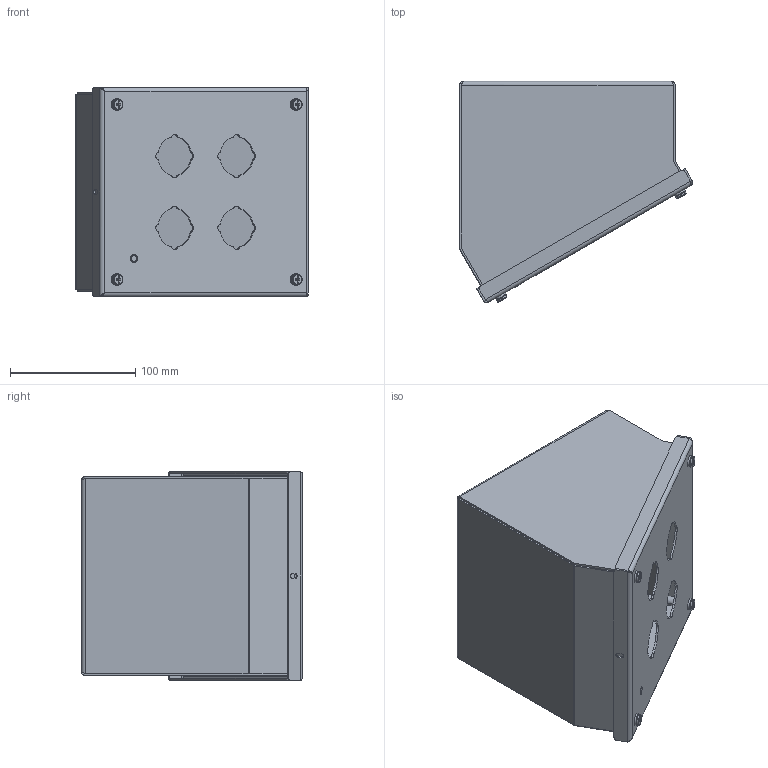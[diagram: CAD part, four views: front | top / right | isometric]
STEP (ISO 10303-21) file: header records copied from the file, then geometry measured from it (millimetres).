
FILE_DESCRIPTION((''),'2;1');
FILE_NAME('MODEL-043_ASM','2023-04-03T13:30:21',('joshi'),('SAGINAW CONTROL & ENGINEERING'),'CREO PARAMETRIC BY PTC INC, 2021284','CREO PARAMETRIC BY PTC INC, 2021284','');
FILE_SCHEMA(('AUTOMOTIVE_DESIGN { 1 0 10303 214 1 1 1 1 }'));
Length unit declared in the file: inch
Products named in the file (12): MODEL-043-BDY; MODEL-043-DR; 100063; 100983; 102534; MODEL-043-GSKT; 100009; CH-ELJ_SUBPANEL; 102479; CH-ELJ_SUBPANEL-SUBASSEMBLY_ASM; 120706; MODEL-043_ASM
Assembly tree (24 placements, depth 3):
  MODEL-043_ASM
    MODEL-043-BDY
    MODEL-043-DR
    100063
    100983  x4
    102534  x4
    MODEL-043-GSKT
    100009  x5
    CH-ELJ_SUBPANEL-SUBASSEMBLY_ASM
      CH-ELJ_SUBPANEL
      102479  x4
    120706
Bounding box: 186 x 176.67 x 166.69 mm (x, y, z)
Volume: 278314.4 mm3; surface area: 362824.4 mm2
Topology: 26 solids, 26 shells, 1101 faces, 2754 edges, 1584 vertices
Faces by surface type: plane 389, cylinder 376, bspline 188, torus 96, cone 44, sphere 8
Entity records: 28675 total; most frequent: CARTESIAN_POINT 7811, DIRECTION 3089, ORIENTED_EDGE 2948, EDGE_CURVE 1474, PRESENTATION_STYLE_ASSIGNMENT 1387, STYLED_ITEM 1387, CURVE_STYLE 1310, AXIS2_PLACEMENT_3D 1169
